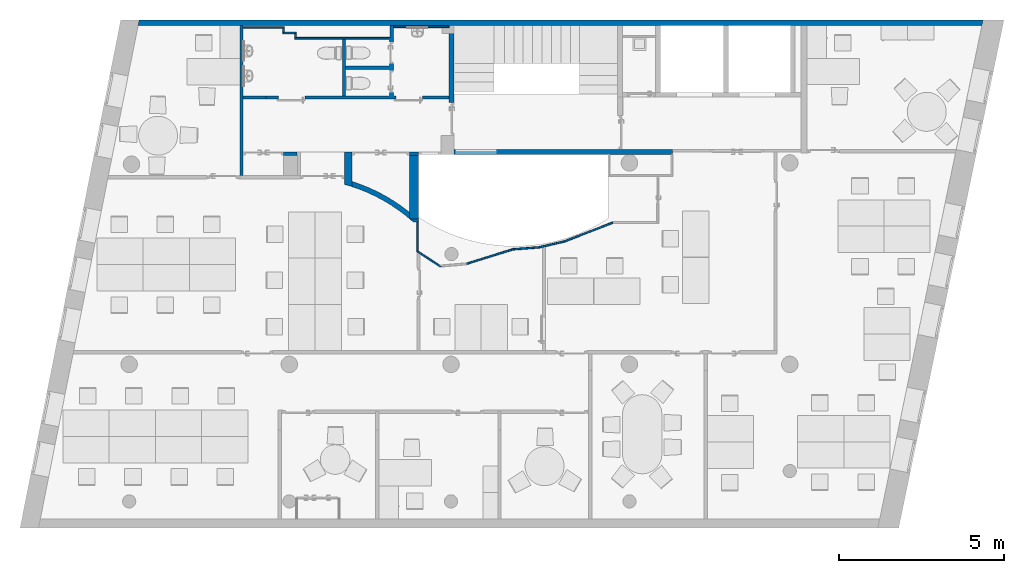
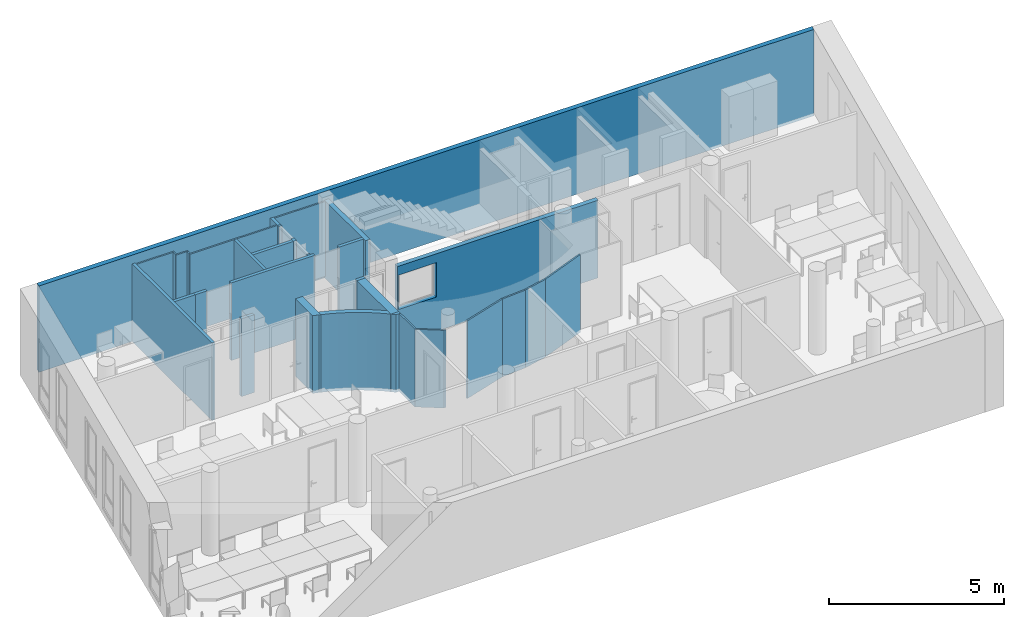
"""IFC4 building model written with IfcOpenShell, lengths in metres."""

from ifc_helpers import new_model, entity, si_unit, converted_unit, derived_unit, frame, frame_2d, origin, origin_with_axes, place, context, subcontext, project, spatial, polyline, rectangle, outline, extrude, material, layer, layer_set, layer_usage, element, save


model = new_model("IFC4")

# Units and contexts
model_context = context("Model", 3, precision=1e-05, world=origin())
body_context = subcontext(model_context, "Body", "Model", "MODEL_VIEW")
ifc_project = project(units=[si_unit("LENGTHUNIT", "METRE"), si_unit("AREAUNIT", "SQUARE_METRE"), si_unit("VOLUMEUNIT", "CUBIC_METRE"), si_unit("MASSUNIT", "GRAM", prefix="KILO"), converted_unit("PLANEANGLEUNIT", "DEGREE", entity("IfcPlaneAngleMeasure", 0.0174532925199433), si_unit("PLANEANGLEUNIT", "RADIAN"), dimensions=[0, 0, 0, 0, 0, 0, 0]), derived_unit("THERMALTRANSMITTANCEUNIT", [(si_unit("POWERUNIT", "WATT"), 1), (si_unit("THERMODYNAMICTEMPERATUREUNIT", "KELVIN"), -1), (si_unit("LENGTHUNIT", "METRE"), -2)]), derived_unit("VOLUMETRICFLOWRATEUNIT", [(si_unit("LENGTHUNIT", "METRE"), 3), (converted_unit("TIMEUNIT", "hour", entity("IfcTimeMeasure", 3600.0), si_unit("TIMEUNIT", "SECOND"), dimensions=[0, 0, 1, 0, 0, 0, 0]), -1), (si_unit("LENGTHUNIT", "METRE"), -1)])], contexts=[model_context])

# Building, storeys
building_placement = place(None, origin())
building = spatial("IfcBuilding", under=ifc_project, at=building_placement, Name="HABITATGE PLURIFAMILIAR", CompositionType="ELEMENT")
storey_1_placement = place(building_placement, frame((0.0, 0.0, 9.26)))
storey_1 = spatial("IfcBuildingStorey", under=building, at=storey_1_placement, Name="PLANTA SEGONA", CompositionType="ELEMENT", Elevation=9.26)
storey_2_placement = place(storey_1_placement, frame((0.0, 0.0, 6.25)))
storey_2 = spatial("IfcBuildingStorey", under=storey_1, at=storey_2_placement, Name="NOU", CompositionType="PARTIAL")

# Wall
ifc_material_1 = material()
ifc_layer_1 = layer(ifc_material_1, 0.1)
ifc_layer_set_1 = layer_set([ifc_layer_1])
ifc_layer_usage_1 = layer_usage(ifc_layer_set_1, "AXIS2", "POSITIVE", 0.0)
wall_1_placement = place(storey_2_placement, frame((409.746984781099, 22.2086090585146, -6.35), z_axis=(0.0, 0.0, 1.0), x_axis=(-1.0, 0.0, 0.0)))
element("IfcWall", 1, at=wall_1_placement, inside=storey_2, material=ifc_layer_usage_1, Name="Evans P2", context=body_context, shape_type="SweptSolid", body=[
    extrude(outline(polyline([(-0.266199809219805, -0.1), (0.0, -0.1), (-0.107141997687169, 0.0), (-0.266199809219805, 0.0), (-0.266199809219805, -0.1)])), frame((0.266199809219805, 0.1, 0.0), z_axis=(0.0, 0.0, 1.0), x_axis=(1.0, 0.0, 0.0)), (0.0, 0.0, 1.0), 2.71),
])

# Wall, opening
ifc_material_2 = material()
ifc_layer_2 = layer(ifc_material_2, 0.15)
ifc_layer_set_2 = layer_set([ifc_layer_2])
ifc_layer_usage_2 = layer_usage(ifc_layer_set_2, "AXIS2", "POSITIVE", 0.0)
wall_2_placement = place(storey_2_placement, frame((417.446984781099, 24.3094598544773, -6.35), z_axis=(0.0, 0.0, 1.0), x_axis=(-1.0, 0.0, 0.0)))
wall_2 = element("IfcWall", 2, at=wall_2_placement, inside=storey_2, material=ifc_layer_usage_2, Name="Evans P2", context=body_context, shape_type="SweptSolid", body=[
    extrude(rectangle(XDim=6.61600031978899, YDim=0.15, at=frame_2d((3.30800015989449, 0.075), x_axis=(1.0, 0.0))), origin_with_axes(), (0.0, 0.0, 1.0), 2.71),
])
opening_1_placement = place(wall_2_placement, frame((6.58000000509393, 0.149999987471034, 1.2), z_axis=(0.0, -1.0, 0.0), x_axis=(0.0, 0.0, 1.0)))
element("IfcOpeningElement", 3, at=opening_1_placement, cuts=wall_2, Name="Vano de Finestra P2", ObjectType="Opening", context=body_context, shape_type="SweptSolid", body=[
    extrude(outline(polyline([(1.2, 1.24), (1.2, 0.0), (0.0, 0.0), (0.0, 1.24), (1.2, 1.24)])), origin_with_axes(), (0.0, 0.0, 1.0), 0.15),
])

# Wall, openings
ifc_material_3 = material()
ifc_layer_3 = layer(ifc_material_3, 0.1)
ifc_layer_set_3 = layer_set([ifc_layer_3])
ifc_layer_usage_3 = layer_usage(ifc_layer_set_3, "AXIS2", "POSITIVE", 0.0)
wall_3_placement = place(storey_2_placement, frame((409.746984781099, 24.2294598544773, -6.35), z_axis=(0.0, 0.0, 1.0), x_axis=(-1.0, 0.0, 0.0)))
wall_3 = element("IfcWall", 4, at=wall_3_placement, inside=storey_2, material=ifc_layer_usage_3, Name="Evans P2", context=body_context, shape_type="SweptSolid", body=[
    extrude(rectangle(XDim=2.00999999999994, YDim=0.1, at=frame_2d((1.00499999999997, 0.05), x_axis=(1.0, 0.0))), origin_with_axes(), (0.0, 0.0, 1.0), 2.71),
])
opening_2_placement = place(wall_3_placement, frame((0.0, 0.0850000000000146, 0.0), z_axis=(0.0, -1.0, 0.0), x_axis=(0.0, 0.0, 1.0)))
element("IfcOpeningElement", 5, at=opening_2_placement, cuts=wall_3, Name="Vano puerta", ObjectType="Opening", context=body_context, shape_type="SweptSolid", body=[
    extrude(outline(polyline([(2.71, 0.681540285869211), (2.71, 0.0), (0.0, 0.0), (0.0, 0.681540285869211), (2.71, 0.681540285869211)])), origin_with_axes(), (0.0, 0.0, 1.0), 0.1),
])
opening_3_placement = place(wall_3_placement, frame((2.01140884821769, 0.1, 0.0), z_axis=(0.0, -1.0, 0.0), x_axis=(0.0, 0.0, 1.0)))
element("IfcOpeningElement", 6, at=opening_3_placement, cuts=wall_3, Name="Vano puerta", ObjectType="Opening", context=body_context, shape_type="SweptSolid", body=[
    extrude(outline(polyline([(2.71, 1.73983265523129), (2.71, 0.0), (0.0, 0.0), (0.0, 1.73983265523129), (2.71, 1.73983265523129)])), origin_with_axes(), (0.0, 0.0, 1.0), 0.1),
])

# Wall
wall_4_placement = place(storey_2_placement, frame((406.109237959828, 18.219376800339, -6.35)))
element("IfcWall", 7, at=wall_4_placement, inside=storey_2, Name="Evans P2", context=body_context, shape_type="SweptSolid", body=[
    extrude(outline(polyline([(0.0, 1.00378576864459), (0.203357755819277, 0.933663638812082), (0.456819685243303, 0.831128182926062), (0.704567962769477, 0.715468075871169), (0.945923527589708, 0.587000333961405), (1.1802248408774, 0.446077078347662), (1.40682969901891, 0.29308456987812), (1.62511699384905, 0.128442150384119), (1.77805121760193, 0.0), (1.74380019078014, 0.0319678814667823), (1.73999999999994, 0.0319678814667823), (1.73999999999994, 0.227841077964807), (1.71857803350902, 0.245832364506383), (1.49401892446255, 0.415205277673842), (1.26090327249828, 0.572593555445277), (1.01987003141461, 0.717565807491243), (0.771579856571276, 0.849724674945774), (0.516713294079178, 0.968707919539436), (0.255968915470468, 1.07418941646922), (0.0, 1.16245300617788), (0.0, 1.00378576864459)])), frame((1.62774682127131, 3.95726437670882, 0.0), z_axis=(0.0, 0.0, 1.0), x_axis=(1.0, 0.0, 0.0)), (0.0, 0.0, 1.0), 2.71),
    extrude(outline(polyline([(0.00255344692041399, 0.0594027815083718), (0.0, 0.0502136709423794), (0.174824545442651, 0.0), (0.00255344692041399, 0.0594027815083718)])), frame((1.3977991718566, 4.98005777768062, 0.0), z_axis=(0.0, 0.0, 1.0), x_axis=(1.0, 0.0, 0.0)), (0.0, 0.0, 1.0), 2.71),
])

# Wall, opening
ifc_material_4 = material()
ifc_layer_4 = layer(ifc_material_4, 0.1)
ifc_layer_set_4 = layer_set([ifc_layer_4])
ifc_layer_usage_4 = layer_usage(ifc_layer_set_4, "AXIS2", "POSITIVE", 0.0)
wall_5_placement = place(storey_2_placement, frame((406.07517066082, 24.2294598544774, -6.35), z_axis=(0.0, 0.0, 1.0), x_axis=(-1.0, 0.0, 0.0)))
wall_5 = element("IfcWall", 8, at=wall_5_placement, inside=storey_2, material=ifc_layer_usage_4, Name="Evans P2", context=body_context, shape_type="SweptSolid", body=[
    extrude(outline(polyline([(-1.63818587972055, -0.1), (0.0, -0.1), (0.0, 0.0), (-1.65348393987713, 0.0), (-1.65348393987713, -0.015804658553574), (-1.63999999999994, -0.015804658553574), (-1.63818587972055, -0.1)])), frame((1.63818587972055, 0.1, 0.0), z_axis=(0.0, 0.0, 1.0), x_axis=(1.0, 0.0, 0.0)), (0.0, 0.0, 1.0), 2.71),
])
opening_4_placement = place(wall_5_placement, frame((1.63818587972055, 0.1, 0.0), z_axis=(0.0, -1.0, 0.0), x_axis=(0.0, 0.0, 1.0)))
element("IfcOpeningElement", 9, at=opening_4_placement, cuts=wall_5, Name="Vano puerta", ObjectType="Opening", context=body_context, shape_type="SweptSolid", body=[
    extrude(outline(polyline([(2.71, 1.22593513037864), (2.71, 0.0), (0.0, 0.0), (0.0, 1.22593513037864), (2.71, 1.22593513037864)])), origin_with_axes(), (0.0, 0.0, 1.0), 0.1),
])

# Walls
ifc_material_5 = material()
ifc_layer_5 = layer(ifc_material_5, 0.1)
ifc_layer_set_5 = layer_set([ifc_layer_5])
ifc_layer_usage_5 = layer_usage(ifc_layer_set_5, "AXIS2", "POSITIVE", 0.0)
wall_6_placement = place(storey_2_placement, frame((404.436984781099, 23.5194598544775, -6.35), z_axis=(0.0, 0.0, 1.0), x_axis=(0.0, 1.0, 0.0)))
element("IfcWall", 10, at=wall_6_placement, inside=storey_2, material=ifc_layer_usage_5, Name="Evans P2", context=body_context, shape_type="SweptSolid", body=[
    extrude(rectangle(XDim=4.54878804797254, YDim=0.1, at=frame_2d((2.27439402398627, 0.05), x_axis=(1.0, 0.0))), origin_with_axes(), (0.0, 0.0, 1.0), 2.71),
])
ifc_material_6 = material()
ifc_layer_6 = layer(ifc_material_6, 0.09)
ifc_layer_set_6 = layer_set([ifc_layer_6])
ifc_layer_usage_6 = layer_usage(ifc_layer_set_6, "AXIS2", "POSITIVE", 0.0)
wall_7_placement = place(storey_2_placement, frame((407.446984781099, 27.6494598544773, -6.35), z_axis=(0.0, 0.0, 1.0), x_axis=(0.0, -1.0, 0.0)))
element("IfcWall", 11, at=wall_7_placement, inside=storey_2, material=ifc_layer_usage_6, Name="Evans P2", context=body_context, shape_type="SweptSolid", body=[
    extrude(rectangle(XDim=1.72000000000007, YDim=0.09, at=frame_2d((0.860000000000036, 0.045), x_axis=(1.0, 0.0))), origin_with_axes(), (0.0, 0.0, 1.0), 2.71),
])
ifc_material_7 = material()
ifc_layer_7 = layer(ifc_material_7, 0.05)
ifc_layer_set_7 = layer_set([ifc_layer_7])
ifc_layer_usage_7 = layer_usage(ifc_layer_set_7, "AXIS2", "POSITIVE", 0.0)
wall_8_placement = place(storey_2_placement, frame((405.996984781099, 27.6494598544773, -6.35)))
element("IfcWall", 12, at=wall_8_placement, inside=storey_2, material=ifc_layer_usage_7, Name="Evans P2", context=body_context, shape_type="SweptSolid", body=[
    extrude(rectangle(XDim=2.88999999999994, YDim=0.05, at=frame_2d((1.44499999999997, 0.025), x_axis=(1.0, 0.0))), origin_with_axes(), (0.0, 0.0, 1.0), 2.71),
])
ifc_material_8 = material()
ifc_layer_8 = layer(ifc_material_8, 0.05)
ifc_layer_set_8 = layer_set([ifc_layer_8])
ifc_layer_usage_8 = layer_usage(ifc_layer_set_8, "AXIS2", "POSITIVE", 0.0)
wall_9_placement = place(storey_2_placement, frame((405.996984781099, 27.8094598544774, -6.35), z_axis=(0.0, 0.0, 1.0), x_axis=(0.0, -1.0, 0.0)))
element("IfcWall", 13, at=wall_9_placement, inside=storey_2, material=ifc_layer_usage_8, Name="Evans P2", context=body_context, shape_type="SweptSolid", body=[
    extrude(rectangle(XDim=0.110000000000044, YDim=0.05, at=frame_2d((0.0550000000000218, 0.025), x_axis=(1.0, 0.0))), origin_with_axes(), (0.0, 0.0, 1.0), 2.71),
])
ifc_material_9 = material()
ifc_layer_9 = layer(ifc_material_9, 0.05)
ifc_layer_set_9 = layer_set([ifc_layer_9])
ifc_layer_usage_9 = layer_usage(ifc_layer_set_9, "AXIS2", "POSITIVE", 0.0)
wall_10_placement = place(storey_2_placement, frame((405.636984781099, 27.8094598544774, -6.35)))
element("IfcWall", 14, at=wall_10_placement, inside=storey_2, material=ifc_layer_usage_9, Name="Evans P2", context=body_context, shape_type="SweptSolid", body=[
    extrude(rectangle(XDim=0.41, YDim=0.05, at=frame_2d((0.205, 0.025), x_axis=(1.0, 0.0))), origin_with_axes(), (0.0, 0.0, 1.0), 2.71),
])
ifc_material_10 = material()
ifc_layer_10 = layer(ifc_material_10, 0.05)
ifc_layer_set_10 = layer_set([ifc_layer_10])
ifc_layer_usage_10 = layer_usage(ifc_layer_set_10, "AXIS2", "POSITIVE", 0.0)
wall_11_placement = place(storey_2_placement, frame((405.636984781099, 27.9794598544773, -6.35), z_axis=(0.0, 0.0, 1.0), x_axis=(0.0, -1.0, 0.0)))
element("IfcWall", 15, at=wall_11_placement, inside=storey_2, material=ifc_layer_usage_10, Name="Evans P2", context=body_context, shape_type="SweptSolid", body=[
    extrude(rectangle(XDim=0.119999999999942, YDim=0.05, at=frame_2d((0.0599999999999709, 0.025), x_axis=(1.0, 0.0))), origin_with_axes(), (0.0, 0.0, 1.0), 2.71),
])
ifc_material_11 = material()
ifc_layer_11 = layer(ifc_material_11, 0.05)
ifc_layer_set_11 = layer_set([ifc_layer_11])
ifc_layer_usage_11 = layer_usage(ifc_layer_set_11, "AXIS2", "POSITIVE", 0.0)
wall_12_placement = place(storey_2_placement, frame((404.436984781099, 27.9794598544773, -6.35)))
element("IfcWall", 16, at=wall_12_placement, inside=storey_2, material=ifc_layer_usage_11, Name="Evans P2", context=body_context, shape_type="SweptSolid", body=[
    extrude(rectangle(XDim=1.25, YDim=0.05, at=frame_2d((0.625, 0.025), x_axis=(1.0, 0.0))), origin_with_axes(), (0.0, 0.0, 1.0), 2.71),
])
ifc_material_12 = material()
ifc_layer_12 = layer(ifc_material_12, 0.1)
ifc_layer_set_12 = layer_set([ifc_layer_12])
ifc_layer_usage_12 = layer_usage(ifc_layer_set_12, "AXIS2", "POSITIVE", 0.0)
wall_13_placement = place(storey_2_placement, frame((407.536984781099, 26.7294598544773, -6.35)))
element("IfcWall", 17, at=wall_13_placement, inside=storey_2, material=ifc_layer_usage_12, Name="Evans P2", context=body_context, shape_type="SweptSolid", body=[
    extrude(rectangle(XDim=1.35048888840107, YDim=0.1, at=frame_2d((0.675244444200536, 0.05), x_axis=(1.0, 0.0))), origin_with_axes(), (0.0, 0.0, 1.0), 2.71),
])
ifc_material_13 = material()
ifc_layer_13 = layer(ifc_material_13, 0.05)
ifc_layer_set_13 = layer_set([ifc_layer_13])
ifc_layer_usage_13 = layer_usage(ifc_layer_set_13, "AXIS2", "POSITIVE", 0.0)
wall_14_placement = place(storey_2_placement, frame((408.986984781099, 27.9994598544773, -6.25)))
element("IfcWall", 18, at=wall_14_placement, inside=storey_2, material=ifc_layer_usage_13, Name="Evans P2", context=body_context, shape_type="SweptSolid", body=[
    extrude(rectangle(XDim=1.69, YDim=0.05, at=frame_2d((0.845, 0.025), x_axis=(1.0, 0.0))), origin_with_axes(), (0.0, 0.0, 1.0), 2.61),
])
ifc_material_14 = material()
ifc_layer_14 = layer(ifc_material_14, 0.1)
ifc_layer_set_14 = layer_set([ifc_layer_14])
ifc_layer_usage_14 = layer_usage(ifc_layer_set_14, "AXIS2", "POSITIVE", 0.0)
wall_15_placement = place(storey_2_placement, frame((404.436984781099, 25.8294598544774, -6.35)))
element("IfcWall", 19, at=wall_15_placement, inside=storey_2, material=ifc_layer_usage_14, Name="Evans P2", context=body_context, shape_type="SweptSolid", body=[
    extrude(rectangle(XDim=0.688106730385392, YDim=0.1, at=frame_2d((0.344053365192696, 0.05), x_axis=(1.0, 0.0))), origin_with_axes(), (0.0, 0.0, 1.0), 2.71),
])
wall_16_placement = place(storey_2_placement, frame((414.173422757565, 21.4994598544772, -6.35), z_axis=(0.0, 0.0, 1.0), x_axis=(0.932655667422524, 0.360767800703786, 0.0)))
element("IfcWall", 20, at=wall_16_placement, inside=storey_2, Name="Mampara P2", context=body_context, shape_type="SweptSolid", body=[
    extrude(outline(polyline([(0.0137911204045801, -0.00533465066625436), (1.59375473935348, -0.00533465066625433), (1.60304858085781, 0.0446653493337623), (0.0172773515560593, 0.0446653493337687), (0.0173613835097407, 0.0446535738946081), (0.0137911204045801, -0.00533465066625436)])), frame((-0.0137911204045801, 0.00533465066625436, 0.0), z_axis=(0.0, 0.0, 1.0), x_axis=(1.0, 0.0, 0.0)), (0.0, 0.0, 1.0), 2.71),
    extrude(outline(polyline([(1.32243247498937e-06, -5.11540402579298e-07), (0.00139944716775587, -0.000191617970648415), (1.64650033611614e-06, 4.25652695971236e-06), (1.32243247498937e-06, -5.11540402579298e-07)])), frame((-0.00139944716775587, 0.000191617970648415, 0.0), z_axis=(0.0, 0.0, 1.0), x_axis=(1.0, 0.0, 0.0)), (0.0, 0.0, 1.0), 2.71),
])
ifc_material_15 = material()
ifc_layer_15 = layer(ifc_material_15, 0.0500000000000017)
ifc_layer_set_15 = layer_set([ifc_layer_15])
ifc_layer_usage_15 = layer_usage(ifc_layer_set_15, "AXIS2", "POSITIVE", 0.0)
wall_17_placement = place(storey_2_placement, frame((413.404180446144, 21.3194547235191, -6.35), z_axis=(0.0, 0.0, 1.0), x_axis=(0.973696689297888, 0.227848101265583, 0.0)))
element("IfcWall", 21, at=wall_17_placement, inside=storey_2, material=ifc_layer_usage_15, Name="Mampara P2", context=body_context, shape_type="SweptSolid", body=[
    extrude(outline(polyline([(0.00746262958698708, -0.0017462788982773), (0.797485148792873, -0.00174627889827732), (0.794083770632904, 0.0482537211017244), (0.0112915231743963, 0.0482537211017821), (0.00746262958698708, -0.0017462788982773)])), frame((-0.00746262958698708, 0.0017462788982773, 0.0), z_axis=(0.0, 0.0, 1.0), x_axis=(1.0, 0.0, 0.0)), (0.0, 0.0, 1.0), 2.71),
])
ifc_material_16 = material()
ifc_layer_16 = layer(ifc_material_16, 0.049999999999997)
ifc_layer_set_16 = layer_set([ifc_layer_16])
ifc_layer_usage_16 = layer_usage(ifc_layer_set_16, "AXIS2", "POSITIVE", 0.0)
wall_18_placement = place(storey_2_placement, frame((412.616314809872, 21.2594071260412, -6.35), z_axis=(0.0, 0.0, 1.0), x_axis=(0.997108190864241, 0.0759951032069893, 0.0)))
element("IfcWall", 22, at=wall_18_placement, inside=storey_2, material=ifc_layer_usage_16, Name="Mampara P2", context=body_context, shape_type="SweptSolid", body=[
    extrude(outline(polyline([(0.00942491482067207, -0.000718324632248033), (0.799575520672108, -0.000718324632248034), (0.79569928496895, 0.049281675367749), (0.00375602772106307, 0.0492816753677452), (0.00942491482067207, -0.000718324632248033)])), frame((-0.00942491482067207, 0.000718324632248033, 0.0), z_axis=(0.0, 0.0, 1.0), x_axis=(1.0, 0.0, 0.0)), (0.0, 0.0, 1.0), 2.71),
])
ifc_material_17 = material()
ifc_layer_17 = layer(ifc_material_17, 0.0499999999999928)
ifc_layer_set_17 = layer_set([ifc_layer_17])
ifc_layer_usage_17 = layer_usage(ifc_layer_set_17, "AXIS2", "POSITIVE", 0.0)
wall_19_placement = place(storey_2_placement, frame((411.203402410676, 20.8194598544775, -6.35), z_axis=(0.0, 0.0, 1.0), x_axis=(0.954784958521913, 0.297297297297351, 0.0)))
element("IfcWall", 23, at=wall_19_placement, inside=storey_2, material=ifc_layer_usage_17, Name="Mampara P2", context=body_context, shape_type="SweptSolid", body=[
    extrude(outline(polyline([(0.00917819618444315, -0.00285787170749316), (1.48900083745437, -0.00285787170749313), (1.49466977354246, 0.0471421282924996), (0.0146789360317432, 0.0471421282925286), (0.00917819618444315, -0.00285787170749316)])), frame((-0.00917819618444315, 0.00285787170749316, 0.0), z_axis=(0.0, 0.0, 1.0), x_axis=(1.0, 0.0, 0.0)), (0.0, 0.0, 1.0), 2.71),
])
ifc_material_18 = material()
ifc_layer_18 = layer(ifc_material_18, 0.0500000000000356)
ifc_layer_set_18 = layer_set([ifc_layer_18])
ifc_layer_usage_18 = layer_usage(ifc_layer_set_18, "AXIS2", "POSITIVE", 0.0)
wall_20_placement = place(storey_2_placement, frame((409.696984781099, 21.2096265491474, -6.35), z_axis=(0.0, 0.0, 1.0), x_axis=(0.831739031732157, -0.555166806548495, 0.0)))
element("IfcWall", 24, at=wall_20_placement, inside=storey_2, material=ifc_layer_usage_18, Name="Mampara P2", context=body_context, shape_type="SweptSolid", body=[
    extrude(outline(polyline([(-0.25546923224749, 0.382738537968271), (0.57341068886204, 0.382738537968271), (0.636001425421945, 0.432738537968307), (-0.228728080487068, 0.432738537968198), (-0.25546923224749, 0.382738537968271)])), frame((0.25546923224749, -0.382738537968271, 0.0), z_axis=(0.0, 0.0, 1.0), x_axis=(1.0, 0.0, 0.0)), (0.0, 0.0, 1.0), 2.71),
])
ifc_material_19 = material()
ifc_layer_19 = layer(ifc_material_19, 0.05)
ifc_layer_set_19 = layer_set([ifc_layer_19])
ifc_layer_usage_19 = layer_usage(ifc_layer_set_19, "AXIS2", "POSITIVE", 0.0)
wall_21_placement = place(storey_2_placement, frame((409.746984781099, 21.2363677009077, -6.35), z_axis=(0.0, 0.0, 1.0), x_axis=(0.0, 1.0, 0.0)))
element("IfcWall", 25, at=wall_21_placement, inside=storey_2, material=ifc_layer_usage_19, Name="Mampara P2", context=body_context, shape_type="SweptSolid", body=[
    extrude(outline(polyline([(0.0267411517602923, -0.05), (0.898982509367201, -0.05), (0.898982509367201, 0.0), (0.0, 0.0), (0.0267411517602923, -0.05)])), frame((-0.0267411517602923, 0.05, 0.0), z_axis=(0.0, 0.0, 1.0), x_axis=(1.0, 0.0, 0.0)), (0.0, 0.0, 1.0), 2.71),
])
ifc_material_20 = material()
ifc_layer_20 = layer(ifc_material_20, 0.1)
ifc_layer_set_20 = layer_set([ifc_layer_20])
ifc_layer_usage_20 = layer_usage(ifc_layer_set_20, "AXIS2", "POSITIVE", 0.0)
wall_22_placement = place(storey_2_placement, frame((406.310967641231, 25.8294598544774, -6.35)))
element("IfcWall", 26, at=wall_22_placement, inside=storey_2, material=ifc_layer_usage_20, Name="Evans P2", context=body_context, shape_type="SweptSolid", body=[
    extrude(rectangle(XDim=2.75438780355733, YDim=0.1, at=frame_2d((1.37719390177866, 0.05), x_axis=(1.0, 0.0))), origin_with_axes(), (0.0, 0.0, 1.0), 2.71),
])
ifc_material_21 = material()
ifc_layer_21 = layer(ifc_material_21, 0.1)
ifc_layer_set_21 = layer_set([ifc_layer_21])
ifc_layer_usage_21 = layer_usage(ifc_layer_set_21, "AXIS2", "POSITIVE", 0.0)
wall_23_placement = place(storey_2_placement, frame((409.865355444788, 25.8294598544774, -6.35)))
element("IfcWall", 27, at=wall_23_placement, inside=storey_2, material=ifc_layer_usage_21, Name="Evans P2", context=body_context, shape_type="SweptSolid", body=[
    extrude(rectangle(XDim=0.8116293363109, YDim=0.1, at=frame_2d((0.40581466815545, 0.05), x_axis=(1.0, 0.0))), origin_with_axes(), (0.0, 0.0, 1.0), 2.71),
])
ifc_material_22 = material()
ifc_layer_22 = layer(ifc_material_22, 0.1)
ifc_layer_set_22 = layer_set([ifc_layer_22])
ifc_layer_usage_22 = layer_usage(ifc_layer_set_22, "AXIS2", "POSITIVE", 0.0)
wall_24_placement = place(storey_2_placement, frame((408.986984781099, 27.6494598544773, -6.35), z_axis=(0.0, 0.0, 1.0), x_axis=(0.0, 1.0, 0.0)))
element("IfcWall", 28, at=wall_24_placement, inside=storey_2, material=ifc_layer_usage_22, Name="Evans P2", context=body_context, shape_type="SweptSolid", body=[
    extrude(rectangle(XDim=0.418788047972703, YDim=0.1, at=frame_2d((0.209394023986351, 0.05), x_axis=(1.0, 0.0))), origin_with_axes(), (0.0, 0.0, 1.0), 2.71),
])
ifc_material_23 = material()
ifc_layer_23 = layer(ifc_material_23, 0.15)
ifc_layer_set_23 = layer_set([ifc_layer_23])
ifc_layer_usage_23 = layer_usage(ifc_layer_set_23, "AXIS2", "POSITIVE", 0.0)
wall_25_placement = place(storey_2_placement, frame((410.826984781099, 25.7294598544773, -6.35), z_axis=(0.0, 0.0, 1.0), x_axis=(0.0, 1.0, 0.0)))
element("IfcWall", 29, at=wall_25_placement, inside=storey_2, material=ifc_layer_usage_23, Name="Evans P2", context=body_context, shape_type="SweptSolid", body=[
    extrude(rectangle(XDim=2.33878804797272, YDim=0.15, at=frame_2d((1.16939402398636, 0.075), x_axis=(1.0, 0.0))), origin_with_axes(), (0.0, 0.0, 1.0), 2.71),
])
ifc_material_24 = material()
ifc_layer_24 = layer(ifc_material_24, 0.27)
ifc_layer_set_24 = layer_set([ifc_layer_24])
ifc_layer_usage_24 = layer_usage(ifc_layer_set_24, "AXIS2", "POSITIVE", 0.0)
wall_26_placement = place(storey_2_placement, frame((409.746984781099, 22.2086090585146, -6.35), z_axis=(0.0, 0.0, 1.0), x_axis=(0.0, 1.0, 0.0)))
element("IfcWall", 30, at=wall_26_placement, inside=storey_2, material=ifc_layer_usage_24, Name="Evans P2", context=body_context, shape_type="SweptSolid", body=[
    extrude(rectangle(XDim=1.9208507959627, YDim=0.27, at=frame_2d((0.960425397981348, 0.135), x_axis=(1.0, 0.0))), origin_with_axes(), (0.0, 0.0, 1.0), 2.71),
])
ifc_material_25 = material()
ifc_layer_25 = layer(ifc_material_25, 0.23)
ifc_layer_set_25 = layer_set([ifc_layer_25])
ifc_layer_usage_25 = layer_usage(ifc_layer_set_25, "AXIS2", "POSITIVE", 0.0)
wall_27_placement = place(storey_2_placement, frame((407.736984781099, 23.1804269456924, -6.35), z_axis=(0.0, 0.0, 1.0), x_axis=(0.0, 1.0, 0.0)))
element("IfcWall", 31, at=wall_27_placement, inside=storey_2, material=ifc_layer_usage_25, Name="Evans P2", context=body_context, shape_type="SweptSolid", body=[
    extrude(outline(polyline([(0.0, -0.23), (1.04903290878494, -0.23), (1.04903290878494, 0.0), (0.0793089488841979, 0.0), (0.0, -0.23)])), frame((0.0, 0.23, 0.0), z_axis=(0.0, 0.0, 1.0), x_axis=(1.0, 0.0, 0.0)), (0.0, 0.0, 1.0), 2.71),
])
ifc_material_26 = material()
ifc_layer_26 = layer(ifc_material_26, 0.16)
ifc_layer_set_26 = layer_set([ifc_layer_26])
ifc_layer_usage_26 = layer_usage(ifc_layer_set_26, "AXIS2", "POSITIVE", 0.0)
wall_28_placement = place(storey_2_placement, frame((426.846407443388, 28.22824790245, -6.35), z_axis=(0.0, 0.0, 1.0), x_axis=(-1.0, 0.0, 0.0)))
element("IfcWall", 32, at=wall_28_placement, inside=storey_2, material=ifc_layer_usage_26, Name="Evans P2", context=body_context, shape_type="SweptSolid", body=[
    extrude(outline(polyline([(-25.5876811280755, -0.16), (-0.0317008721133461, -0.16), (0.0, 0.0), (-25.5545228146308, 0.0), (-25.5876811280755, -0.16)])), frame((25.5876811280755, 0.16, 0.0), z_axis=(0.0, 0.0, 1.0), x_axis=(1.0, 0.0, 0.0)), (0.0, 0.0, 1.0), 3.01),
])

# Wall, openings
ifc_material_27 = material()
ifc_layer_27 = layer(ifc_material_27, 0.1)
ifc_layer_set_27 = layer_set([ifc_layer_27])
ifc_layer_usage_27 = layer_usage(ifc_layer_set_27, "AXIS2", "POSITIVE", 0.0)
wall_29_placement = place(storey_2_placement, frame((408.986984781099, 25.9294598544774, -6.35), z_axis=(0.0, 0.0, 1.0), x_axis=(0.0, 1.0, 0.0)))
wall_29 = element("IfcWall", 33, at=wall_29_placement, inside=storey_2, material=ifc_layer_usage_27, Name="Evans P2", context=body_context, shape_type="SweptSolid", body=[
    extrude(outline(polyline([(0.0, -0.1), (1.71999999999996, -0.1), (1.71999999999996, 0.0), (0.899999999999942, 0.0), (0.799999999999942, 0.0), (0.0, 0.0), (0.0, -0.1)])), frame((0.0, 0.1, 0.0), z_axis=(0.0, 0.0, 1.0), x_axis=(1.0, 0.0, 0.0)), (0.0, 0.0, 1.0), 2.71),
])
opening_5_placement = place(wall_29_placement, frame((1.65, 0.1, 0.0), z_axis=(0.0, -1.0, 0.0), x_axis=(0.0, 0.0, 1.0)))
element("IfcOpeningElement", 34, at=opening_5_placement, cuts=wall_29, Name="Vano puerta", ObjectType="Opening", context=body_context, shape_type="SweptSolid", body=[
    extrude(outline(polyline([(2.71, 0.700000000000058), (2.71, 0.0), (0.0, 0.0), (0.0, 0.700000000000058), (2.71, 0.700000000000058)])), origin_with_axes(), (0.0, 0.0, 1.0), 0.1),
])
opening_6_placement = place(wall_29_placement, frame((0.798973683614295, 0.1, 0.0), z_axis=(0.0, -1.0, 0.0), x_axis=(0.0, 0.0, 1.0)))
element("IfcOpeningElement", 35, at=opening_6_placement, cuts=wall_29, Name="Vano puerta", ObjectType="Opening", context=body_context, shape_type="SweptSolid", body=[
    extrude(outline(polyline([(2.71, 0.74), (2.71, 0.0), (0.0, 0.0), (0.0, 0.74), (2.71, 0.74)])), origin_with_axes(), (0.0, 0.0, 1.0), 0.1),
])

# Wall, opening
ifc_material_28 = material()
ifc_layer_28 = layer(ifc_material_28, 0.1)
ifc_layer_set_28 = layer_set([ifc_layer_28])
ifc_layer_usage_28 = layer_usage(ifc_layer_set_28, "AXIS2", "POSITIVE", 0.0)
wall_30_placement = place(storey_2_placement, frame((405.125091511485, 25.8294598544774, -6.35)))
wall_30 = element("IfcWall", 36, at=wall_30_placement, inside=storey_2, material=ifc_layer_usage_28, Name="Evans P2", context=body_context, shape_type="SweptSolid", body=[
    extrude(rectangle(XDim=1.18587612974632, YDim=0.1, at=frame_2d((0.59293806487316, 0.05), x_axis=(1.0, 0.0))), origin_with_axes(), (0.0, 0.0, 1.0), 2.71),
])
opening_7_placement = place(wall_30_placement, frame((1.18587612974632, 0.1, 0.0), z_axis=(0.0, -1.0, 0.0), x_axis=(0.0, 0.0, 1.0)))
element("IfcOpeningElement", 37, at=opening_7_placement, cuts=wall_30, Name="Vano puerta", ObjectType="Opening", context=body_context, shape_type="SweptSolid", body=[
    extrude(outline(polyline([(2.71, 0.795770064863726), (2.71, 0.0), (0.0, 0.0), (0.0, 0.795770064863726), (2.71, 0.795770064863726)])), origin_with_axes(), (0.0, 0.0, 1.0), 0.1),
])

save(model, "model.ifc")
